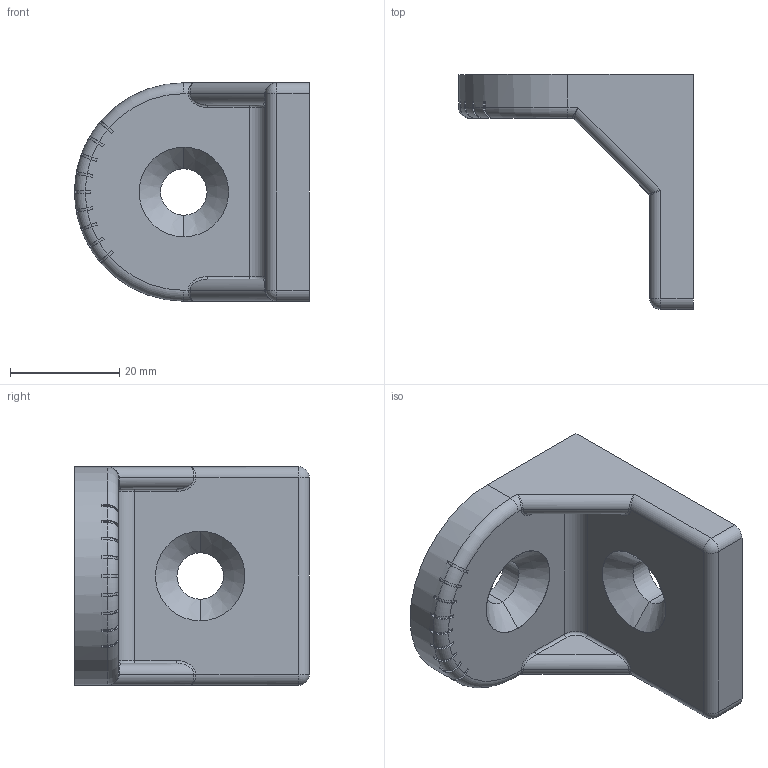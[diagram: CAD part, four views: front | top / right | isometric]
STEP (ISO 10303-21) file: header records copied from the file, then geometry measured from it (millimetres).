
FILE_DESCRIPTION (( 'STEP AP214' ), '1' );
FILE_NAME ('093wg402n.STEP', '2013-01-15T13:15:03', ( '' ), ( '' ), 'SwSTEP 2.0', 'SolidWorks 2012', '' );
FILE_SCHEMA (( 'AUTOMOTIVE_DESIGN' ));
Length unit declared in the file: millimetre
Products named in the file (1): 093wg402n
Bounding box: 43 x 43 x 40 mm (x, y, z)
Volume: 17274.7 mm3; surface area: 10019.8 mm2
Topology: 1 solids, 1 shells, 361 faces, 889 edges, 522 vertices
Faces by surface type: plane 95, cone 82, cylinder 60, sphere 46, torus 42, bspline 36
Entity records: 11517 total; most frequent: CARTESIAN_POINT 3213, DIRECTION 1799, ORIENTED_EDGE 1730, EDGE_CURVE 865, AXIS2_PLACEMENT_3D 736, VERTEX_POINT 522, CIRCLE 410, EDGE_LOOP 381
